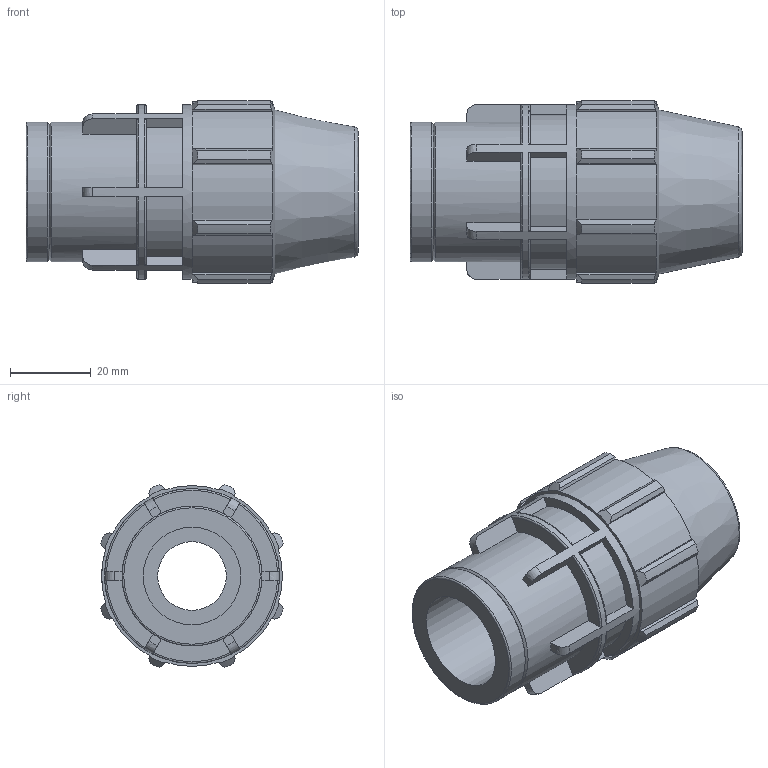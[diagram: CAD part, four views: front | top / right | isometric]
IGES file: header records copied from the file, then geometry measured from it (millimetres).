
Global section: file name: 0703M0005007.ipt; native system: Autodesk Inventor 2019; preprocessor: unknown; author: KIM; date: 20210826.124507; units: inch
Bounding box: 82.04 x 45.17 x 45.17 mm (x, y, z)
Volume: 66596.8 mm3; surface area: 19768.6 mm2
Topology: 1 solids, 1 shells, 148 faces, 413 edges, 277 vertices
Faces by surface type: plane 86, revolution 25, cylinder 25, cone 12
Full cylindrical faces by diameter (mm): 34.564 x2, 43.205 x1
